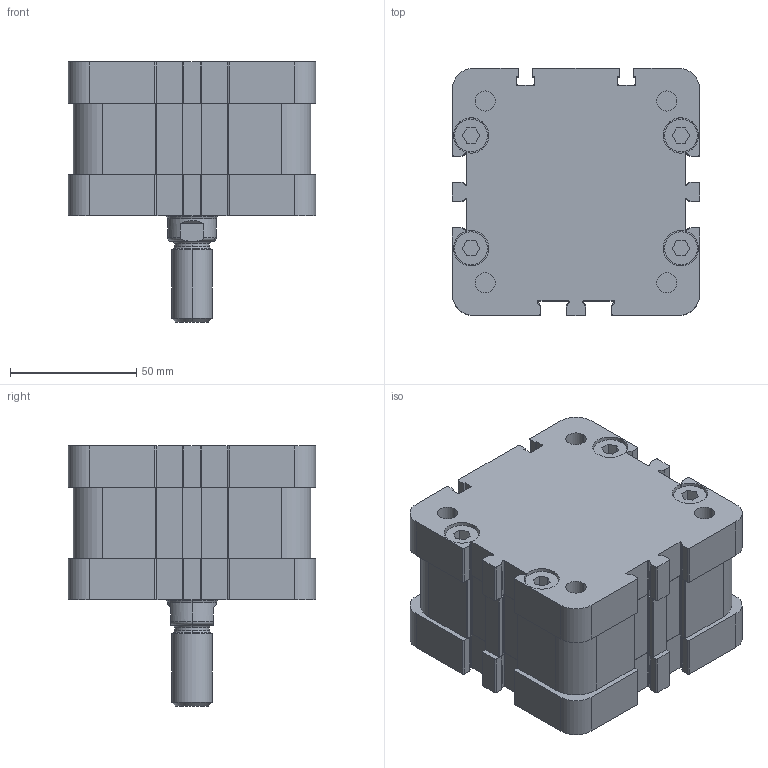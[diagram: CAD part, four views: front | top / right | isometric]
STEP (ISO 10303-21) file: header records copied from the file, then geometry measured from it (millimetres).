
FILE_DESCRIPTION((''),'2;1');
FILE_NAME('P31M20800005.stp','2010-02-25T20:04:29',('B. Petkovic 2010'),('AZ PNEUMATICA S.r.l.'),'Mechanical Desktop 2006','Mechanical Desktop 2006','Via Marco Biagi 6, I-20020 Misinto(MI) Italy, azpneu@tin.it');
FILE_SCHEMA(('CONFIG_CONTROL_DESIGN'));
Length unit declared in the file: millimetre
Products named in the file (2): P31M20800005; COMPACT CILINDRI
Assembly tree (1 placements, depth 2):
  P31M20800005
    COMPACT CILINDRI
Bounding box: 98 x 98 x 103 mm (x, y, z)
Volume: 529093.7 mm3; surface area: 63321.4 mm2
Topology: 1 solids, 1 shells, 528 faces, 1399 edges, 911 vertices
Faces by surface type: plane 322, cylinder 194, cone 6, bspline 4, torus 2
Entity records: 16765 total; most frequent: CARTESIAN_POINT 3100, DIRECTION 2942, ORIENTED_EDGE 2798, EDGE_CURVE 1399, AXIS2_PLACEMENT_3D 1019, VERTEX_POINT 911, VECTOR 904, LINE 904
